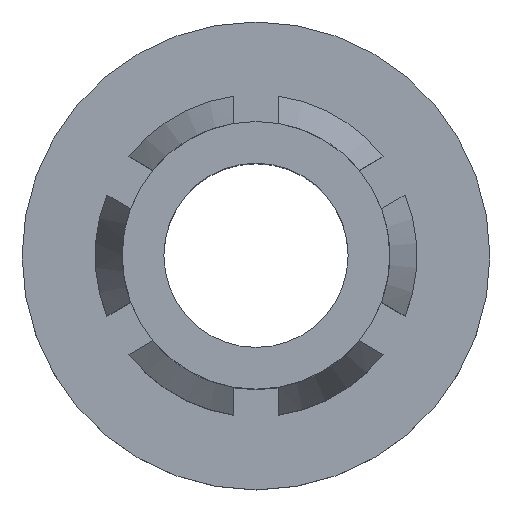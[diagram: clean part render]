
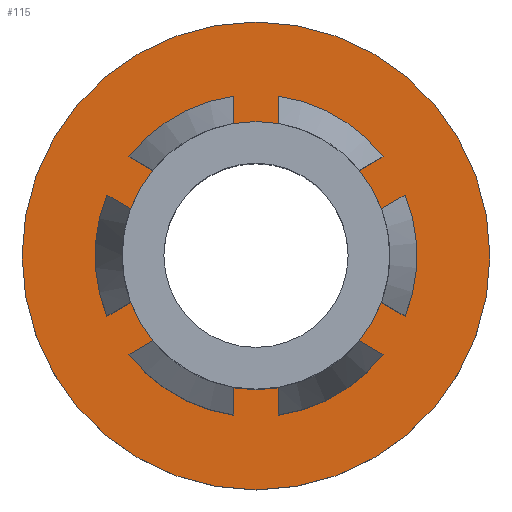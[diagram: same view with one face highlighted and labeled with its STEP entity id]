
A CAD part, top view. The second image highlights one B-rep face of the part: STEP entity #115.
In plain terms, the highlighted planar face has unit normal (0, 0, 1).
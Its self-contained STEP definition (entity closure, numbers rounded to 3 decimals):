
#73 = DIRECTION ( 'NONE',  ( 0., 0., -1. ) ) ;
#78 = EDGE_LOOP ( 'NONE', ( #1400 ) ) ;
#91 = DIRECTION ( 'NONE',  ( -1., 0., 0. ) ) ;
#95 = DIRECTION ( 'NONE',  ( -1., 0., 0. ) ) ;
#115 = ADVANCED_FACE ( 'NONE', ( #219, #1176 ), #1326, .F. ) ;
#117 = CARTESIAN_POINT ( 'NONE',  ( 8.938, 0., -18.201 ) ) ;
#192 = DIRECTION ( 'NONE',  ( 0., 0., -1. ) ) ;
#219 = FACE_BOUND ( 'NONE', #78, .T. ) ;
#319 = DIRECTION ( 'NONE',  ( -1., 0., 0. ) ) ;
#536 = ORIENTED_EDGE ( 'NONE', *, *, #1403, .F. ) ;
#541 = CARTESIAN_POINT ( 'NONE',  ( 8.938, 0., -18.201 ) ) ;
#694 = CARTESIAN_POINT ( 'NONE',  ( 12.113, 0., -18.201 ) ) ;
#762 = AXIS2_PLACEMENT_3D ( 'NONE', #694, #1444, #91 ) ;
#844 = VERTEX_POINT ( 'NONE', #1493 ) ;
#974 = CARTESIAN_POINT ( 'NONE',  ( 7.122, 0., -18.201 ) ) ;
#982 = EDGE_CURVE ( 'NONE', #1172, #1172, #1549, .T. ) ;
#1020 = AXIS2_PLACEMENT_3D ( 'NONE', #117, #192, #319 ) ;
#1172 = VERTEX_POINT ( 'NONE', #974 ) ;
#1176 = FACE_OUTER_BOUND ( 'NONE', #1577, .T. ) ;
#1231 = AXIS2_PLACEMENT_3D ( 'NONE', #541, #73, #95 ) ;
#1326 = PLANE ( 'NONE',  #762 ) ;
#1400 = ORIENTED_EDGE ( 'NONE', *, *, #982, .T. ) ;
#1403 = EDGE_CURVE ( 'NONE', #844, #844, #1506, .T. ) ;
#1444 = DIRECTION ( 'NONE',  ( 0., 0., -1. ) ) ;
#1493 = CARTESIAN_POINT ( 'NONE',  ( 5.763, 0., -18.201 ) ) ;
#1506 = CIRCLE ( 'NONE', #1231, 3.175 ) ;
#1549 = CIRCLE ( 'NONE', #1020, 1.816 ) ;
#1577 = EDGE_LOOP ( 'NONE', ( #536 ) ) ;
